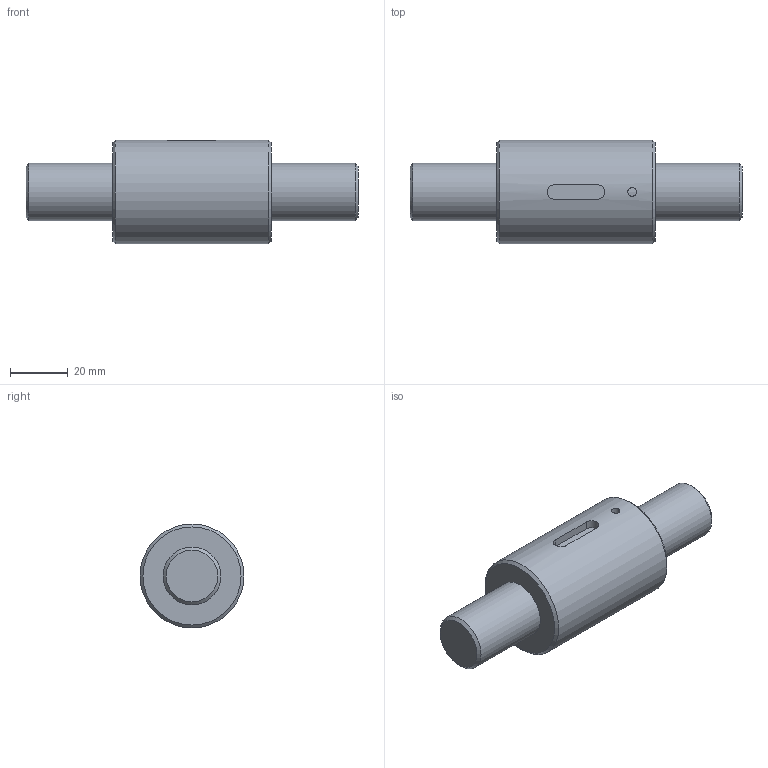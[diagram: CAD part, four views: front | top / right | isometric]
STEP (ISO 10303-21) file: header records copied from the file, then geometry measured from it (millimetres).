
FILE_DESCRIPTION (( 'STEP AP203' ), '1' );
FILE_NAME ('SCNH2020.STEP', '2023-08-16T07:59:43', ( '' ), ( '' ), 'SwSTEP 2.0', 'SolidWorks 2022', '' );
FILE_SCHEMA (( 'CONFIG_CONTROL_DESIGN' ));
Length unit declared in the file: millimetre
Products named in the file (1): SCNH2020
Bounding box: 115 x 36 x 36 mm (x, y, z)
Volume: 74325 mm3; surface area: 18917.8 mm2
Topology: 2 solids, 2 shells, 18 faces, 35 edges, 22 vertices
Faces by surface type: plane 7, cylinder 5, cone 4, bspline 2
Full cylindrical faces by diameter (mm): 20 x2, 36 x1
Entity records: 806 total; most frequent: CARTESIAN_POINT 386, DIRECTION 68, ORIENTED_EDGE 56, EDGE_LOOP 30, AXIS2_PLACEMENT_3D 29, EDGE_CURVE 28, VERTEX_POINT 22, FACE_OUTER_BOUND 21
